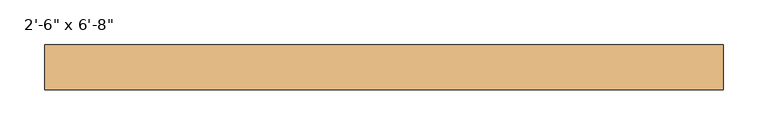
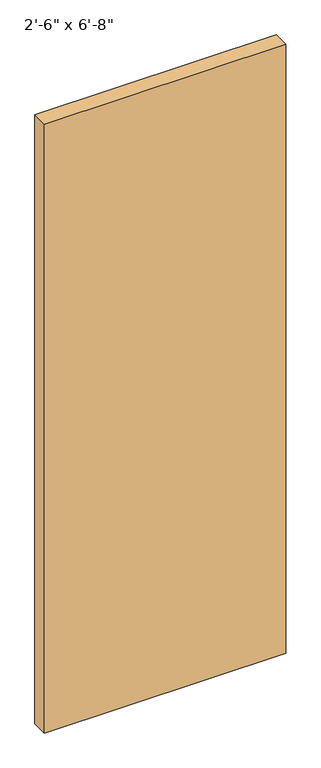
"""IFC4 building model written with IfcOpenShell, lengths in millimetres: door geometry."""

from ifc_helpers import new_model, si_unit, origin, origin_with_axes, place, context, project, spatial, polyline, outline, extrude, source, transform, mapped, element, save


def door_aa45f35f(model_context):
    return source(origin(), model_context, "Body", "SweptSolid", [
        extrude(outline(polyline([(381.0, 6.15), (-381.0, 6.15), (-381.0, 57.15), (381.0, 57.15), (381.0, 6.15)])), origin_with_axes(), (0.0, 0.0, 1.0), 2032.0),
    ])


if __name__ == "__main__":
    model = new_model("IFC4")
    model_context = context("Model", 3, world=origin())
    ifc_project = project(units=[si_unit("LENGTHUNIT", "METRE", prefix="MILLI")], contexts=[model_context])
    site = spatial("IfcSite", under=ifc_project)
    building = spatial("IfcBuilding", under=site)
    placement = place(None, origin())
    door_shape = door_aa45f35f(model_context)
    element("IfcDoor", 1, ObjectType="Planitar - Single Door_Flush Panel : 2'-6\" x 6'-8\"", at=placement, inside=building, context=model_context, shape_type="MappedRepresentation", body=[
        mapped(door_shape, transform((0.0, 0.0, 0.0), x_axis=(1.0, 0.0, 0.0), y_axis=(0.0, 1.0, 0.0), z_axis=(0.0, 0.0, 1.0))),
    ])
    save(model, "model.ifc")
